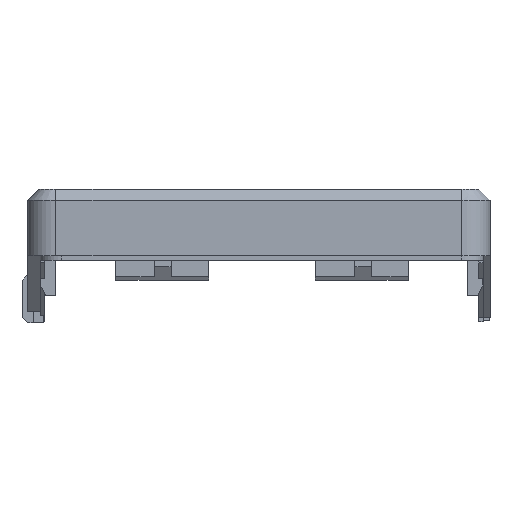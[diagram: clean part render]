
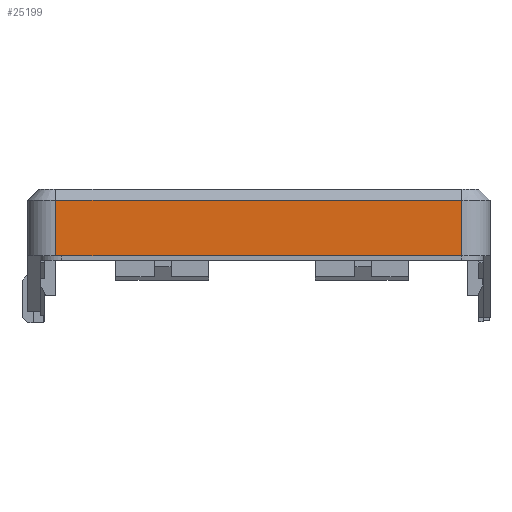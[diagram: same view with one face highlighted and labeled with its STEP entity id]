
A CAD part, left-side view. The second image highlights one B-rep face of the part: STEP entity #25199.
In plain terms, the highlighted planar face has unit normal (-1, 0, 0).
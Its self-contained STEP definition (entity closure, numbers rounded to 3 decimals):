
#3272=FACE_OUTER_BOUND('',#4648,.T.);
#4648=EDGE_LOOP('',(#20902,#20903,#20904,#20905));
#6522=LINE('',#41012,#8796);
#6530=LINE('',#41039,#8804);
#6531=LINE('',#41043,#8805);
#6532=LINE('',#41044,#8806);
#8796=VECTOR('',#28473,10.);
#8804=VECTOR('',#28505,10.);
#8805=VECTOR('',#28510,10.);
#8806=VECTOR('',#28511,10.);
#11397=VERTEX_POINT('',#41002);
#11399=VERTEX_POINT('',#41008);
#11407=VERTEX_POINT('',#41038);
#11408=VERTEX_POINT('',#41042);
#14761=EDGE_CURVE('',#11397,#11399,#6522,.T.);
#14775=EDGE_CURVE('',#11399,#11407,#6530,.T.);
#14777=EDGE_CURVE('',#11408,#11397,#6531,.T.);
#14778=EDGE_CURVE('',#11408,#11407,#6532,.T.);
#20902=ORIENTED_EDGE('',*,*,#14761,.F.);
#20903=ORIENTED_EDGE('',*,*,#14777,.F.);
#20904=ORIENTED_EDGE('',*,*,#14778,.T.);
#20905=ORIENTED_EDGE('',*,*,#14775,.F.);
#24067=PLANE('',#26041);
#25199=ADVANCED_FACE('',(#3272),#24067,.F.);
#26041=AXIS2_PLACEMENT_3D('',#41041,#28508,#28509);
#28473=DIRECTION('',(0.,-1.,0.));
#28505=DIRECTION('',(0.,0.,-1.));
#28508=DIRECTION('center_axis',(1.,0.,0.));
#28509=DIRECTION('ref_axis',(0.,0.,-1.));
#28510=DIRECTION('',(0.,0.,1.));
#28511=DIRECTION('',(0.,-1.,0.));
#41002=CARTESIAN_POINT('',(-52.949,35.862,21.268));
#41008=CARTESIAN_POINT('',(-52.949,-35.9,21.268));
#41012=CARTESIAN_POINT('',(-52.949,-20.71,21.268));
#41038=CARTESIAN_POINT('',(-52.949,-35.9,11.469));
#41039=CARTESIAN_POINT('',(-52.949,-35.9,0.));
#41041=CARTESIAN_POINT('Origin',(-52.949,-40.9,0.));
#41042=CARTESIAN_POINT('',(-52.949,35.862,11.469));
#41043=CARTESIAN_POINT('',(-52.949,35.862,0.));
#41044=CARTESIAN_POINT('',(-52.949,-20.46,11.469));
